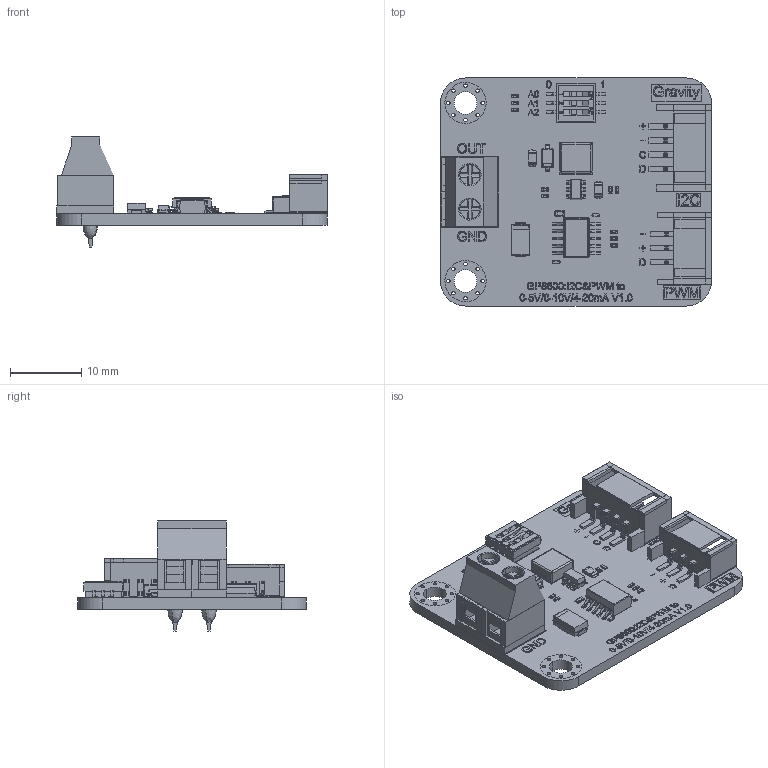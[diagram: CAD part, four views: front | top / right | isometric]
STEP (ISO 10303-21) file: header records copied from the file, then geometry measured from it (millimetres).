
FILE_DESCRIPTION(/* description */ (''),/* implementation_level */ '2;1');
FILE_NAME(/* name */ 'DFR1229',/* time_stamp */ '2026-08-17T16:00:08+08:00',/* author */ (''),/* organization */ (''),/* preprocessor_version */ 'ST-DEVELOPER v19.2',/* originating_system */ 'Rhino 8.0',/* authorisation */ '');
FILE_SCHEMA (('AUTOMOTIVE_DESIGN'));
Products named in the file (1): Document
Bounding box: 38 x 32 x 15.45 mm (x, y, z)
Volume: 2744.2 mm3; surface area: 6139.5 mm2
Topology: 315 solids, 326 shells, 6105 faces, 15912 edges, 10405 vertices
Faces by surface type: plane 5070, bspline 578, cylinder 457
Entity records: 188829 total; most frequent: CARTESIAN_POINT 75138, ORIENTED_EDGE 31702, EDGE_CURVE 15884, B_SPLINE_CURVE_WITH_KNOTS 14681, VERTEX_POINT 10405, EDGE_LOOP 6482, DIRECTION 6108, ADVANCED_FACE 6105
